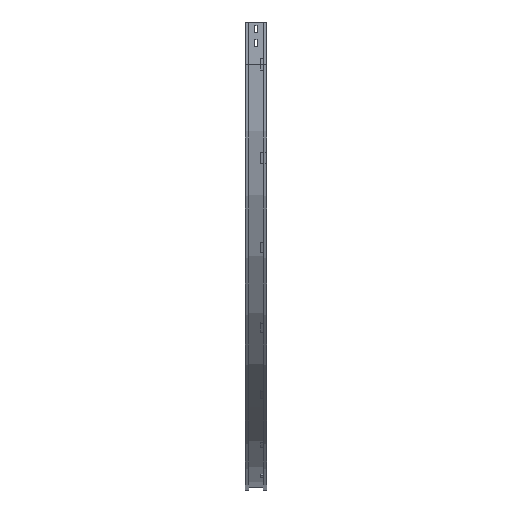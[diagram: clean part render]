
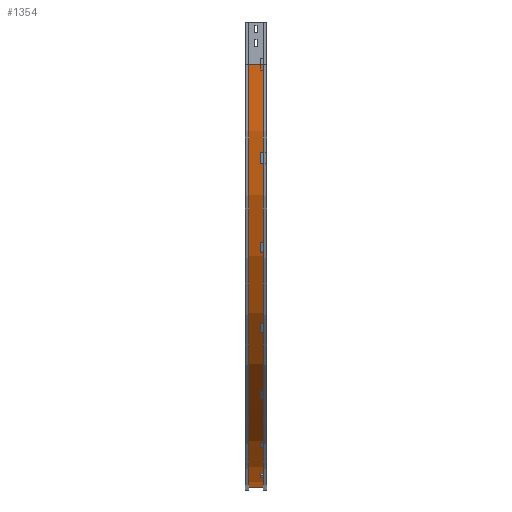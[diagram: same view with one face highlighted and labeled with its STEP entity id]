
A CAD part, left-side view. The second image highlights one B-rep face of the part: STEP entity #1354.
In plain terms, the highlighted cylindrical face has radius 1500 mm (diameter 3000 mm), a partial arc.
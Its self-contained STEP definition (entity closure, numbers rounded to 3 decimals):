
#57 = CARTESIAN_POINT ( 'NONE',  ( 1509., 63., -1650. ) ) ;
#62 = CARTESIAN_POINT ( 'NONE',  ( 1509., 12., -150. ) ) ;
#266 = VECTOR ( 'NONE', #653, 1000. ) ;
#311 = ORIENTED_EDGE ( 'NONE', *, *, #1807, .T. ) ;
#348 = DIRECTION ( 'NONE',  ( -1., 0., 0. ) ) ;
#451 = DIRECTION ( 'NONE',  ( 0., -1., 0. ) ) ;
#514 = DIRECTION ( 'NONE',  ( 0., -1., 0. ) ) ;
#653 = DIRECTION ( 'NONE',  ( 0., -1., 0. ) ) ;
#675 = CARTESIAN_POINT ( 'NONE',  ( 9., 12., -150. ) ) ;
#913 = CARTESIAN_POINT ( 'NONE',  ( 1509., 0., -150. ) ) ;
#1071 = CARTESIAN_POINT ( 'NONE',  ( 1509., 63., -150. ) ) ;
#1160 = CIRCLE ( 'NONE', #1261, 1500. ) ;
#1183 = ORIENTED_EDGE ( 'NONE', *, *, #2505, .T. ) ;
#1261 = AXIS2_PLACEMENT_3D ( 'NONE', #62, #2510, #348 ) ;
#1274 = VERTEX_POINT ( 'NONE', #57 ) ;
#1354 = ADVANCED_FACE ( 'NONE', ( #3088 ), #3301, .T. ) ;
#1364 = AXIS2_PLACEMENT_3D ( 'NONE', #1071, #514, #3191 ) ;
#1440 = DIRECTION ( 'NONE',  ( 0., -1., 0. ) ) ;
#1466 = EDGE_LOOP ( 'NONE', ( #2620, #2392, #1183, #311 ) ) ;
#1807 = EDGE_CURVE ( 'NONE', #1274, #2424, #2764, .T. ) ;
#1856 = VERTEX_POINT ( 'NONE', #675 ) ;
#1874 = CARTESIAN_POINT ( 'NONE',  ( 1509., 12., -1650. ) ) ;
#1910 = CARTESIAN_POINT ( 'NONE',  ( 9., 63., -150. ) ) ;
#1977 = LINE ( 'NONE', #2193, #266 ) ;
#2193 = CARTESIAN_POINT ( 'NONE',  ( 9., 12., -150. ) ) ;
#2269 = VECTOR ( 'NONE', #1440, 1000. ) ;
#2379 = AXIS2_PLACEMENT_3D ( 'NONE', #913, #451, #2585 ) ;
#2392 = ORIENTED_EDGE ( 'NONE', *, *, #2632, .F. ) ;
#2424 = VERTEX_POINT ( 'NONE', #1874 ) ;
#2505 = EDGE_CURVE ( 'NONE', #2577, #1274, #2543, .T. ) ;
#2510 = DIRECTION ( 'NONE',  ( 0., -1., 0. ) ) ;
#2543 = CIRCLE ( 'NONE', #1364, 1500. ) ;
#2577 = VERTEX_POINT ( 'NONE', #1910 ) ;
#2585 = DIRECTION ( 'NONE',  ( 0., 0., -1. ) ) ;
#2620 = ORIENTED_EDGE ( 'NONE', *, *, #2640, .F. ) ;
#2632 = EDGE_CURVE ( 'NONE', #2577, #1856, #1977, .T. ) ;
#2640 = EDGE_CURVE ( 'NONE', #1856, #2424, #1160, .T. ) ;
#2764 = LINE ( 'NONE', #2832, #2269 ) ;
#2832 = CARTESIAN_POINT ( 'NONE',  ( 1509., 12., -1650. ) ) ;
#3088 = FACE_OUTER_BOUND ( 'NONE', #1466, .T. ) ;
#3191 = DIRECTION ( 'NONE',  ( -1., 0., 0. ) ) ;
#3301 = CYLINDRICAL_SURFACE ( 'NONE', #2379, 1500. ) ;
